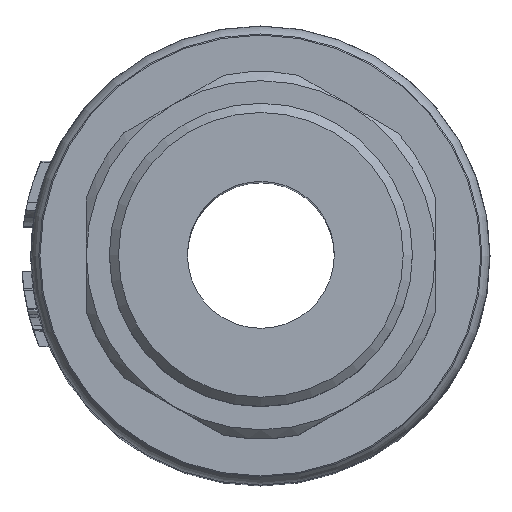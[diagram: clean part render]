
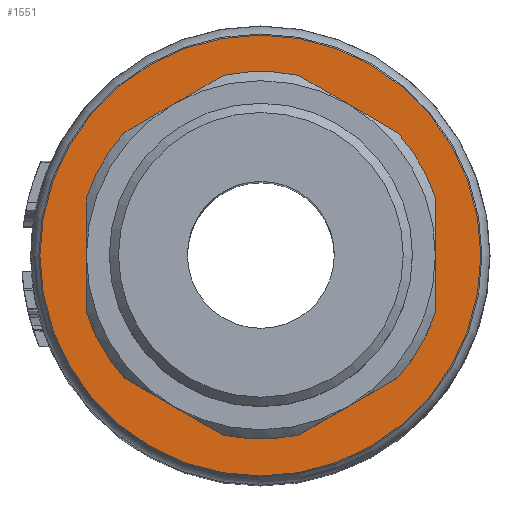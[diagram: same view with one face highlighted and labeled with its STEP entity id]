
A CAD part, top view. The second image highlights one B-rep face of the part: STEP entity #1551.
In plain terms, the highlighted planar face has unit normal (0, 0, 1).
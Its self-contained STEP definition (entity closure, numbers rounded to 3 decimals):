
#115=FACE_BOUND('',#2881,.T.);
#116=FACE_BOUND('',#2882,.T.);
#228=CIRCLE('',#10829,7.);
#231=CIRCLE('',#10833,12.);
#1551=ADVANCED_FACE('',(#115,#116),#1885,.T.);
#1885=PLANE('',#10837);
#2881=EDGE_LOOP('',(#4839));
#2882=EDGE_LOOP('',(#4840));
#4839=ORIENTED_EDGE('',*,*,#8609,.T.);
#4840=ORIENTED_EDGE('',*,*,#8612,.T.);
#7149=VERTEX_POINT('',#21214);
#7152=VERTEX_POINT('',#21221);
#8609=EDGE_CURVE('',#7149,#7149,#228,.T.);
#8612=EDGE_CURVE('',#7152,#7152,#231,.T.);
#10829=AXIS2_PLACEMENT_3D('',#21213,#11877,#11878);
#10833=AXIS2_PLACEMENT_3D('',#21220,#11885,#11886);
#10837=AXIS2_PLACEMENT_3D('',#21226,#11893,#11894);
#11877=DIRECTION('',(0.,0.,-1.));
#11878=DIRECTION('',(1.,0.,0.));
#11885=DIRECTION('',(0.,0.,1.));
#11886=DIRECTION('',(1.,0.,0.));
#11893=DIRECTION('',(0.,0.,1.));
#11894=DIRECTION('',(1.,0.,0.));
#21213=CARTESIAN_POINT('',(0.028,0.,36.));
#21214=CARTESIAN_POINT('',(7.028,0.,36.));
#21220=CARTESIAN_POINT('',(0.,0.,36.));
#21221=CARTESIAN_POINT('',(12.,0.,36.));
#21226=CARTESIAN_POINT('',(0.,0.,36.));
